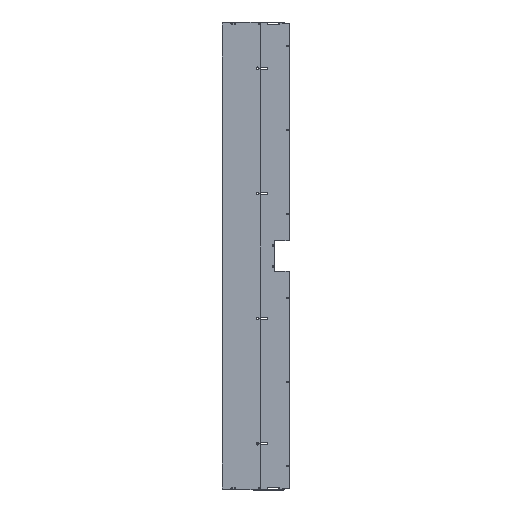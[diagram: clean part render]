
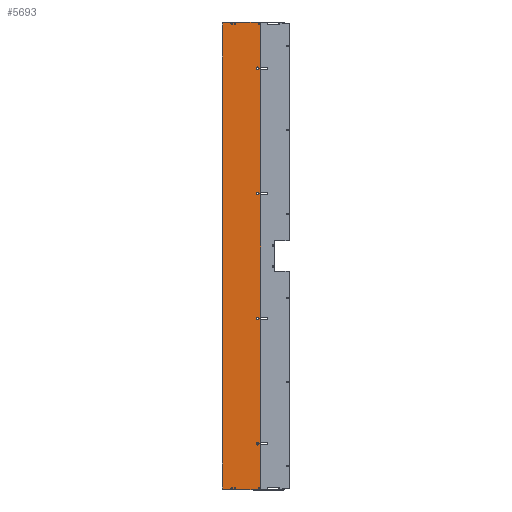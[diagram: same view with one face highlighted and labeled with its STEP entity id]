
A CAD part, top view. The second image highlights one B-rep face of the part: STEP entity #5693.
In plain terms, the highlighted planar face has unit normal (0, 0, 1) as drawn and (0, 0, -1) by its records, which use the part's own axes.
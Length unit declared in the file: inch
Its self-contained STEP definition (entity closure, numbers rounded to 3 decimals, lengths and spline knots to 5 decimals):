
#4371=CARTESIAN_POINT('',(-1.485,-35.69875,-0.075));
#4372=DIRECTION('',(0.,0.,1.));
#4373=DIRECTION('',(0.,1.,0.));
#4374=AXIS2_PLACEMENT_3D('',#4371,#4372,#4373);
#4379=CARTESIAN_POINT('',(-1.485,-35.69875,-0.075));
#4380=DIRECTION('',(0.,0.,1.));
#4381=DIRECTION('',(0.,-1.,0.));
#4382=AXIS2_PLACEMENT_3D('',#4379,#4380,#4381);
#4387=CARTESIAN_POINT('',(-1.485,35.69875,-0.075));
#4388=DIRECTION('',(0.,0.,1.));
#4389=DIRECTION('',(0.,1.,0.));
#4390=AXIS2_PLACEMENT_3D('',#4387,#4388,#4389);
#4395=CARTESIAN_POINT('',(-1.485,35.69875,-0.075));
#4396=DIRECTION('',(0.,0.,1.));
#4397=DIRECTION('',(0.,-1.,0.));
#4398=AXIS2_PLACEMENT_3D('',#4395,#4396,#4397);
#4403=CARTESIAN_POINT('',(-0.985,-35.69875,-0.075));
#4404=DIRECTION('',(0.,0.,1.));
#4405=DIRECTION('',(0.,1.,0.));
#4406=AXIS2_PLACEMENT_3D('',#4403,#4404,#4405);
#4411=CARTESIAN_POINT('',(-0.985,-35.69875,-0.075));
#4412=DIRECTION('',(0.,0.,1.));
#4413=DIRECTION('',(0.,-1.,0.));
#4414=AXIS2_PLACEMENT_3D('',#4411,#4412,#4413);
#4419=CARTESIAN_POINT('',(-0.985,35.69875,-0.075));
#4420=DIRECTION('',(0.,0.,1.));
#4421=DIRECTION('',(0.,1.,0.));
#4422=AXIS2_PLACEMENT_3D('',#4419,#4420,#4421);
#4427=CARTESIAN_POINT('',(-0.985,35.69875,-0.075));
#4428=DIRECTION('',(0.,0.,1.));
#4429=DIRECTION('',(0.,-1.,0.));
#4430=AXIS2_PLACEMENT_3D('',#4427,#4428,#4429);
#4435=CARTESIAN_POINT('',(2.86,-35.84375,-0.075));
#4436=DIRECTION('',(0.,0.,-1.));
#4437=DIRECTION('',(1.,0.,0.));
#4438=AXIS2_PLACEMENT_3D('',#4435,#4436,#4437);
#4443=DIRECTION('',(0.,1.,0.));
#4444=VECTOR('',#4443,71.6875);
#4445=CARTESIAN_POINT('',(2.985,-35.84375,-0.075));
#4446=LINE('',#4445,#4444);
#4450=CARTESIAN_POINT('',(2.86,35.84375,-0.075));
#4451=DIRECTION('',(0.,0.,-1.));
#4452=DIRECTION('',(0.,1.,0.));
#4453=AXIS2_PLACEMENT_3D('',#4450,#4451,#4452);
#4458=DIRECTION('',(-1.,0.,0.));
#4459=VECTOR('',#4458,5.728);
#4460=CARTESIAN_POINT('',(2.86,35.96875,-0.075));
#4461=LINE('',#4460,#4459);
#4465=DIRECTION('',(1.,0.,0.));
#4466=VECTOR('',#4465,5.728);
#4467=CARTESIAN_POINT('',(-2.868,-35.96875,-0.075));
#4468=LINE('',#4467,#4466);
#4472=CARTESIAN_POINT('',(2.485,-28.84375,-0.075));
#4473=DIRECTION('',(0.,0.,-1.));
#4474=DIRECTION('',(0.,1.,0.));
#4475=AXIS2_PLACEMENT_3D('',#4472,#4473,#4474);
#4480=CARTESIAN_POINT('',(2.485,-28.84375,-0.075));
#4481=DIRECTION('',(0.,0.,-1.));
#4482=DIRECTION('',(0.,-1.,0.));
#4483=AXIS2_PLACEMENT_3D('',#4480,#4481,#4482);
#4488=CARTESIAN_POINT('',(2.485,-9.61458,-0.075));
#4489=DIRECTION('',(0.,0.,-1.));
#4490=DIRECTION('',(0.,1.,0.));
#4491=AXIS2_PLACEMENT_3D('',#4488,#4489,#4490);
#4496=CARTESIAN_POINT('',(2.485,-9.61458,-0.075));
#4497=DIRECTION('',(0.,0.,-1.));
#4498=DIRECTION('',(0.,-1.,0.));
#4499=AXIS2_PLACEMENT_3D('',#4496,#4497,#4498);
#4504=CARTESIAN_POINT('',(2.485,9.61458,-0.075));
#4505=DIRECTION('',(0.,0.,-1.));
#4506=DIRECTION('',(0.,1.,0.));
#4507=AXIS2_PLACEMENT_3D('',#4504,#4505,#4506);
#4512=CARTESIAN_POINT('',(2.485,9.61458,-0.075));
#4513=DIRECTION('',(0.,0.,-1.));
#4514=DIRECTION('',(0.,-1.,0.));
#4515=AXIS2_PLACEMENT_3D('',#4512,#4513,#4514);
#4520=CARTESIAN_POINT('',(2.485,28.84375,-0.075));
#4521=DIRECTION('',(0.,0.,-1.));
#4522=DIRECTION('',(0.,1.,0.));
#4523=AXIS2_PLACEMENT_3D('',#4520,#4521,#4522);
#4528=CARTESIAN_POINT('',(2.485,28.84375,-0.075));
#4529=DIRECTION('',(0.,0.,-1.));
#4530=DIRECTION('',(0.,-1.,0.));
#4531=AXIS2_PLACEMENT_3D('',#4528,#4529,#4530);
#4536=CARTESIAN_POINT('',(2.70375,-35.6875,-0.075));
#4537=DIRECTION('',(0.,0.,1.));
#4538=DIRECTION('',(0.,1.,0.));
#4539=AXIS2_PLACEMENT_3D('',#4536,#4537,#4538);
#4544=CARTESIAN_POINT('',(2.70375,-35.6875,-0.075));
#4545=DIRECTION('',(0.,0.,1.));
#4546=DIRECTION('',(0.,-1.,0.));
#4547=AXIS2_PLACEMENT_3D('',#4544,#4545,#4546);
#4552=CARTESIAN_POINT('',(2.70375,35.6875,-0.075));
#4553=DIRECTION('',(0.,0.,1.));
#4554=DIRECTION('',(0.,1.,0.));
#4555=AXIS2_PLACEMENT_3D('',#4552,#4553,#4554);
#4560=CARTESIAN_POINT('',(2.70375,35.6875,-0.075));
#4561=DIRECTION('',(0.,0.,1.));
#4562=DIRECTION('',(0.,-1.,0.));
#4563=AXIS2_PLACEMENT_3D('',#4560,#4561,#4562);
#5174=DIRECTION('',(0.,-1.,0.));
#5175=VECTOR('',#5174,71.9375);
#5176=CARTESIAN_POINT('',(-2.868,35.96875,-0.075));
#5177=LINE('',#5176,#5175);
#5320=CARTESIAN_POINT('',(-2.868,35.96875,-0.075));
#5321=VERTEX_POINT('',#5320);
#5322=CARTESIAN_POINT('',(-2.868,-35.96875,-0.075));
#5323=VERTEX_POINT('',#5322);
#5340=CARTESIAN_POINT('',(-0.985,35.82375,-0.075));
#5341=CARTESIAN_POINT('',(-0.985,35.57375,-0.075));
#5342=VERTEX_POINT('',#5340);
#5343=VERTEX_POINT('',#5341);
#5344=CARTESIAN_POINT('',(-0.985,-35.57375,-0.075));
#5345=CARTESIAN_POINT('',(-0.985,-35.82375,-0.075));
#5346=VERTEX_POINT('',#5344);
#5347=VERTEX_POINT('',#5345);
#5432=CARTESIAN_POINT('',(2.985,-35.84375,-0.075));
#5433=VERTEX_POINT('',#5432);
#5434=CARTESIAN_POINT('',(2.86,-35.96875,-0.075));
#5435=VERTEX_POINT('',#5434);
#5440=CARTESIAN_POINT('',(2.86,35.96875,-0.075));
#5441=VERTEX_POINT('',#5440);
#5442=CARTESIAN_POINT('',(2.985,35.84375,-0.075));
#5443=VERTEX_POINT('',#5442);
#5460=CARTESIAN_POINT('',(2.485,29.01575,-0.075));
#5461=CARTESIAN_POINT('',(2.485,28.67175,-0.075));
#5462=VERTEX_POINT('',#5460);
#5463=VERTEX_POINT('',#5461);
#5464=CARTESIAN_POINT('',(2.485,9.78658,-0.075));
#5465=CARTESIAN_POINT('',(2.485,9.44258,-0.075));
#5466=VERTEX_POINT('',#5464);
#5467=VERTEX_POINT('',#5465);
#5468=CARTESIAN_POINT('',(2.485,-9.44258,-0.075));
#5469=CARTESIAN_POINT('',(2.485,-9.78658,-0.075));
#5470=VERTEX_POINT('',#5468);
#5471=VERTEX_POINT('',#5469);
#5472=CARTESIAN_POINT('',(2.485,-28.67175,-0.075));
#5473=CARTESIAN_POINT('',(2.485,-29.01575,-0.075));
#5474=VERTEX_POINT('',#5472);
#5475=VERTEX_POINT('',#5473);
#5484=CARTESIAN_POINT('',(-1.485,35.82375,-0.075));
#5485=CARTESIAN_POINT('',(-1.485,35.57375,-0.075));
#5486=VERTEX_POINT('',#5484);
#5487=VERTEX_POINT('',#5485);
#5488=CARTESIAN_POINT('',(-1.485,-35.57375,-0.075));
#5489=CARTESIAN_POINT('',(-1.485,-35.82375,-0.075));
#5490=VERTEX_POINT('',#5488);
#5491=VERTEX_POINT('',#5489);
#5500=CARTESIAN_POINT('',(2.70375,35.7965,-0.075));
#5501=CARTESIAN_POINT('',(2.70375,35.5785,-0.075));
#5502=VERTEX_POINT('',#5500);
#5503=VERTEX_POINT('',#5501);
#5504=CARTESIAN_POINT('',(2.70375,-35.5785,-0.075));
#5505=CARTESIAN_POINT('',(2.70375,-35.7965,-0.075));
#5506=VERTEX_POINT('',#5504);
#5507=VERTEX_POINT('',#5505);
#5616=CARTESIAN_POINT('',(0.,0.,-0.075));
#5617=DIRECTION('',(0.,0.,1.));
#5618=DIRECTION('',(1.,0.,0.));
#5619=AXIS2_PLACEMENT_3D('',#5616,#5617,#5618);
#5620=PLANE('',#5619);
#5622=ORIENTED_EDGE('',*,*,#5621,.F.);
#5624=ORIENTED_EDGE('',*,*,#5623,.T.);
#5626=ORIENTED_EDGE('',*,*,#5625,.F.);
#5628=ORIENTED_EDGE('',*,*,#5627,.T.);
#5630=ORIENTED_EDGE('',*,*,#5629,.T.);
#5632=ORIENTED_EDGE('',*,*,#5631,.T.);
#5633=EDGE_LOOP('',(#5622,#5624,#5626,#5628,#5630,#5632));
#5634=FACE_OUTER_BOUND('',#5633,.F.);
#5636=ORIENTED_EDGE('',*,*,#5635,.F.);
#5638=ORIENTED_EDGE('',*,*,#5637,.F.);
#5639=EDGE_LOOP('',(#5636,#5638));
#5640=FACE_BOUND('',#5639,.F.);
#5642=ORIENTED_EDGE('',*,*,#5641,.F.);
#5644=ORIENTED_EDGE('',*,*,#5643,.F.);
#5645=EDGE_LOOP('',(#5642,#5644));
#5646=FACE_BOUND('',#5645,.F.);
#5647=ORIENTED_EDGE('',*,*,#5596,.F.);
#5648=ORIENTED_EDGE('',*,*,#5610,.F.);
#5649=EDGE_LOOP('',(#5647,#5648));
#5650=FACE_BOUND('',#5649,.F.);
#5652=ORIENTED_EDGE('',*,*,#5651,.F.);
#5654=ORIENTED_EDGE('',*,*,#5653,.F.);
#5655=EDGE_LOOP('',(#5652,#5654));
#5656=FACE_BOUND('',#5655,.F.);
#5658=ORIENTED_EDGE('',*,*,#5657,.T.);
#5660=ORIENTED_EDGE('',*,*,#5659,.T.);
#5661=EDGE_LOOP('',(#5658,#5660));
#5662=FACE_BOUND('',#5661,.F.);
#5664=ORIENTED_EDGE('',*,*,#5663,.T.);
#5666=ORIENTED_EDGE('',*,*,#5665,.T.);
#5667=EDGE_LOOP('',(#5664,#5666));
#5668=FACE_BOUND('',#5667,.F.);
#5670=ORIENTED_EDGE('',*,*,#5669,.T.);
#5672=ORIENTED_EDGE('',*,*,#5671,.T.);
#5673=EDGE_LOOP('',(#5670,#5672));
#5674=FACE_BOUND('',#5673,.F.);
#5676=ORIENTED_EDGE('',*,*,#5675,.T.);
#5678=ORIENTED_EDGE('',*,*,#5677,.T.);
#5679=EDGE_LOOP('',(#5676,#5678));
#5680=FACE_BOUND('',#5679,.F.);
#5682=ORIENTED_EDGE('',*,*,#5681,.F.);
#5684=ORIENTED_EDGE('',*,*,#5683,.F.);
#5685=EDGE_LOOP('',(#5682,#5684));
#5686=FACE_BOUND('',#5685,.F.);
#5688=ORIENTED_EDGE('',*,*,#5687,.F.);
#5690=ORIENTED_EDGE('',*,*,#5689,.F.);
#5691=EDGE_LOOP('',(#5688,#5690));
#5692=FACE_BOUND('',#5691,.F.);
#4375=CIRCLE('',#4374,0.125);
#4383=CIRCLE('',#4382,0.125);
#4391=CIRCLE('',#4390,0.125);
#4399=CIRCLE('',#4398,0.125);
#4407=CIRCLE('',#4406,0.125);
#4415=CIRCLE('',#4414,0.125);
#4423=CIRCLE('',#4422,0.125);
#4431=CIRCLE('',#4430,0.125);
#4439=CIRCLE('',#4438,0.125);
#4454=CIRCLE('',#4453,0.125);
#4476=CIRCLE('',#4475,0.172);
#4484=CIRCLE('',#4483,0.172);
#4492=CIRCLE('',#4491,0.172);
#4500=CIRCLE('',#4499,0.172);
#4508=CIRCLE('',#4507,0.172);
#4516=CIRCLE('',#4515,0.172);
#4524=CIRCLE('',#4523,0.172);
#4532=CIRCLE('',#4531,0.172);
#4540=CIRCLE('',#4539,0.109);
#4548=CIRCLE('',#4547,0.109);
#4556=CIRCLE('',#4555,0.109);
#4564=CIRCLE('',#4563,0.109);
#5596=EDGE_CURVE('',#5342,#5343,#4423,.T.);
#5610=EDGE_CURVE('',#5343,#5342,#4431,.T.);
#5621=EDGE_CURVE('',#5433,#5435,#4439,.T.);
#5623=EDGE_CURVE('',#5433,#5443,#4446,.T.);
#5625=EDGE_CURVE('',#5441,#5443,#4454,.T.);
#5627=EDGE_CURVE('',#5441,#5321,#4461,.T.);
#5629=EDGE_CURVE('',#5321,#5323,#5177,.T.);
#5631=EDGE_CURVE('',#5323,#5435,#4468,.T.);
#5635=EDGE_CURVE('',#5486,#5487,#4391,.T.);
#5637=EDGE_CURVE('',#5487,#5486,#4399,.T.);
#5641=EDGE_CURVE('',#5346,#5347,#4407,.T.);
#5643=EDGE_CURVE('',#5347,#5346,#4415,.T.);
#5651=EDGE_CURVE('',#5490,#5491,#4375,.T.);
#5653=EDGE_CURVE('',#5491,#5490,#4383,.T.);
#5657=EDGE_CURVE('',#5474,#5475,#4476,.T.);
#5659=EDGE_CURVE('',#5475,#5474,#4484,.T.);
#5663=EDGE_CURVE('',#5470,#5471,#4492,.T.);
#5665=EDGE_CURVE('',#5471,#5470,#4500,.T.);
#5669=EDGE_CURVE('',#5466,#5467,#4508,.T.);
#5671=EDGE_CURVE('',#5467,#5466,#4516,.T.);
#5675=EDGE_CURVE('',#5462,#5463,#4524,.T.);
#5677=EDGE_CURVE('',#5463,#5462,#4532,.T.);
#5681=EDGE_CURVE('',#5506,#5507,#4540,.T.);
#5683=EDGE_CURVE('',#5507,#5506,#4548,.T.);
#5687=EDGE_CURVE('',#5502,#5503,#4556,.T.);
#5689=EDGE_CURVE('',#5503,#5502,#4564,.T.);
#5693=ADVANCED_FACE('',(#5634,#5640,#5646,#5650,#5656,#5662,#5668,#5674,#5680,
#5686,#5692),#5620,.F.);
